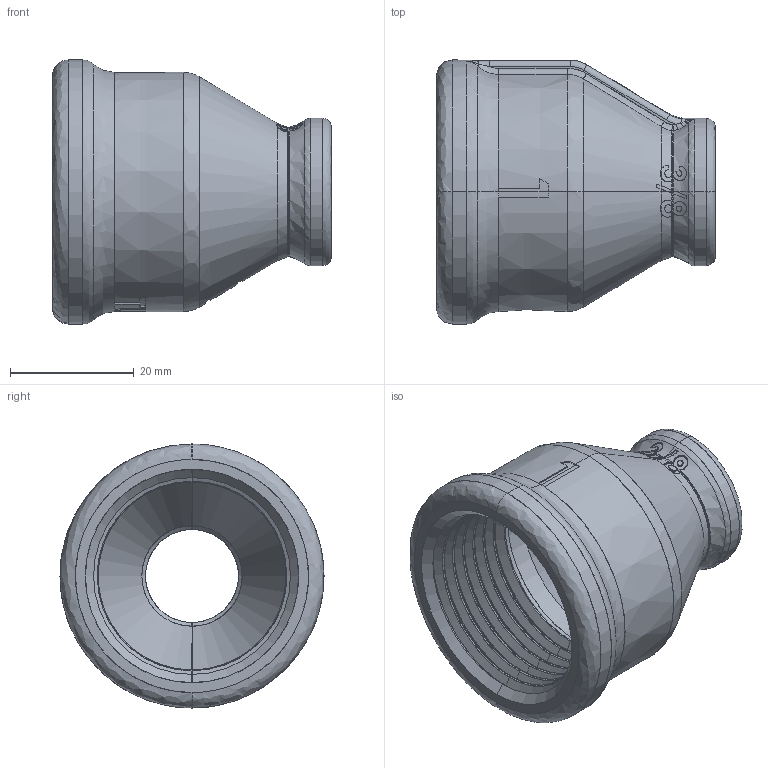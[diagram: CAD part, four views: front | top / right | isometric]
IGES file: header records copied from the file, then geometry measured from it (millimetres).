
Start section: SolidWorks IGES file using analytic representation for surfaces
Global section: file name: C:\Users\Joel Rosa\Desktop\Tubulação\12-32-OK\12-32-031.IGS; native system: SolidWorks 2011; preprocessor: SolidWorks 2011; author: Joel Rosa; date: 121208.224050; units: millimetre
Bounding box: 45 x 42.6 x 42.6 mm (x, y, z)
Surface area: 11202.9 mm2 (no closed solid volume)
Topology: 0 solids, 0 shells, 390 faces, 3665 edges, 3660 vertices
Faces by surface type: bspline 289, revolution 101
